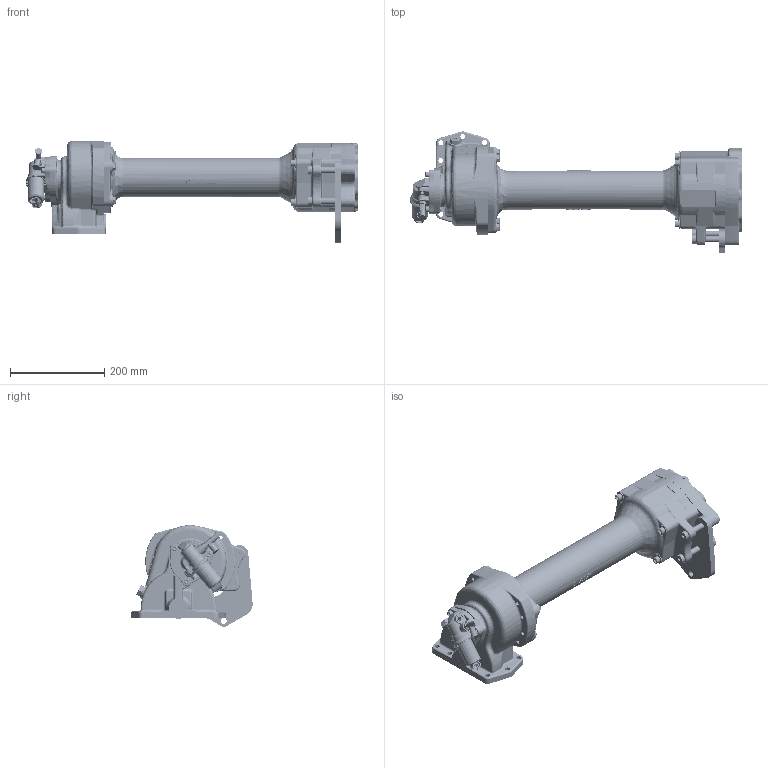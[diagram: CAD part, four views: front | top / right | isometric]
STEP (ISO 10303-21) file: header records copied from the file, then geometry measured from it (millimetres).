
FILE_DESCRIPTION(/* description */ (''),/* implementation_level */ '2;1');
FILE_NAME(/* name */ 'C:\Users\vca7724\Desktop\890R-B5XK.stp',/* time_stamp */ '2015-04-14T10:06:27-05:00',/* author */ ('vca7724'),/* organization */ (''),/* preprocessor_version */ 'ST-DEVELOPER v15.2',/* originating_system */ 'Autodesk Inventor 2014',/* authorisation */ '');
FILE_SCHEMA (('AUTOMOTIVE_DESIGN { 1 0 10303 214 3 1 1 }'));
Products named in the file (35): 1-P-629; 54-P-22; 561018; 379919; 379668; 28-p-278; 21-P-723; 2-P-877; 379231; 329609-2X; 34-P-143; 378811; 378849; 28-P-119; 378447-6; 380123-12; 380124; 500897-5; 329463-12X; 28-P-245_compressed; 22-P-112; 379242; 14-P-82-1; 28-P-42; 378452-7; 68-P-51; 378422; 378431-13; 379433-18; 380076-07; 379659; 379564-2; 50-P-61; 380071; 890-B5XK
Bounding box: 704.69 x 257.4 x 215.98 mm (x, y, z)
Volume: 4101052.3 mm3; surface area: 941525.1 mm2
Topology: 56 solids, 59 shells, 7556 faces, 18864 edges, 11705 vertices
Faces by surface type: plane 2938, bspline 2051, cylinder 1968, cone 316, torus 221, sphere 62
Full cylindrical faces by diameter (mm): 0.8 x1, 1.473 x2, 1.968 x2, 1.981 x3, 2.184 x2, 2.388 x1, 2.464 x2, 2.794 x2, 2.857 x2, 3.175 x8, 4.369 x2, 4.699 x3, 4.75 x1, 4.775 x2, 4.978 x1, 6.35 x1, 6.401 x3, 7.62 x1, 7.798 x14, 7.836 x4, 7.925 x4, 7.95 x3, 8.331 x1, 8.382 x1, 8.712 x3, 9.246 x5, 9.347 x4, 9.449 x4, 9.525 x6, 9.728 x1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
Entity records: 284233 total; most frequent: CARTESIAN_POINT 118910, ORIENTED_EDGE 35200, DIRECTION 28750, EDGE_CURVE 17597, VERTEX_POINT 11183, AXIS2_PLACEMENT_3D 9780, LINE 9190, VECTOR 9190
